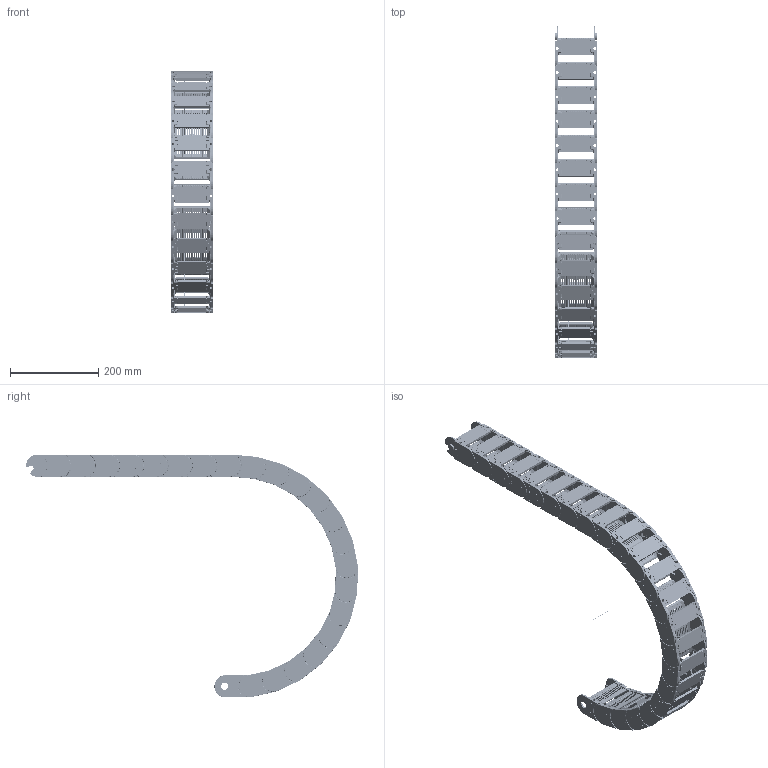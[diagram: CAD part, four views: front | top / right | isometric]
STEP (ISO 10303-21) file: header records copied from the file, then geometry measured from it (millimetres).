
FILE_DESCRIPTION((''),'2;1');
FILE_NAME('C:\Uebbing\PARAMETERKETTEN\KOLIBRI\Kol_50_095_1\KOLIBRI 50_095_1.stp','2013-05-22T09:09:25',('Uebbing'),(''),'Autodesk Inventor 10','Autodesk Inventor 10','');
FILE_SCHEMA(('AUTOMOTIVE_DESIGN { 1 0 10303 214 1 1 1 1 }'));
Length unit declared in the file: millimetre
Products named in the file (6): KOLIBRI 50_095_1_PARAMETRISCH; Achse; KOLIBRI 50_095_1_Glied; Kol_50_095_1_Lasche; Kol_50_95_0_Klappsteg; PZ Stecksteg 50 2mm
Assembly tree (27 placements, depth 3):
  KOLIBRI 50_095_1_PARAMETRISCH
    Achse
    KOLIBRI 50_095_1_Glied  x23
      Kol_50_095_1_Lasche
      Kol_50_95_0_Klappsteg
      PZ Stecksteg 50 2mm
Bounding box: 95.47 x 751.73 x 550.25 mm (x, y, z)
Volume: 1335739.3 mm3; surface area: 938290.3 mm2
Topology: 70 solids, 70 shells, 20887 faces, 56446 edges, 36527 vertices
Faces by surface type: bspline 9384, plane 8029, cylinder 2830, cone 368, torus 230, sphere 46
Full cylindrical faces by diameter (mm): 1 x1, 2.021 x23, 3.549 x23, 4 x23, 4.036 x23, 4.221 x46, 6.231 x23, 16.08 x23, 16.18 x23
Entity records: 34049 total; most frequent: CARTESIAN_POINT 12232, ORIENTED_EDGE 4838, DIRECTION 3829, EDGE_CURVE 2419, VECTOR 1769, LINE 1769, VERTEX_POINT 1577, AXIS2_PLACEMENT_3D 1030
